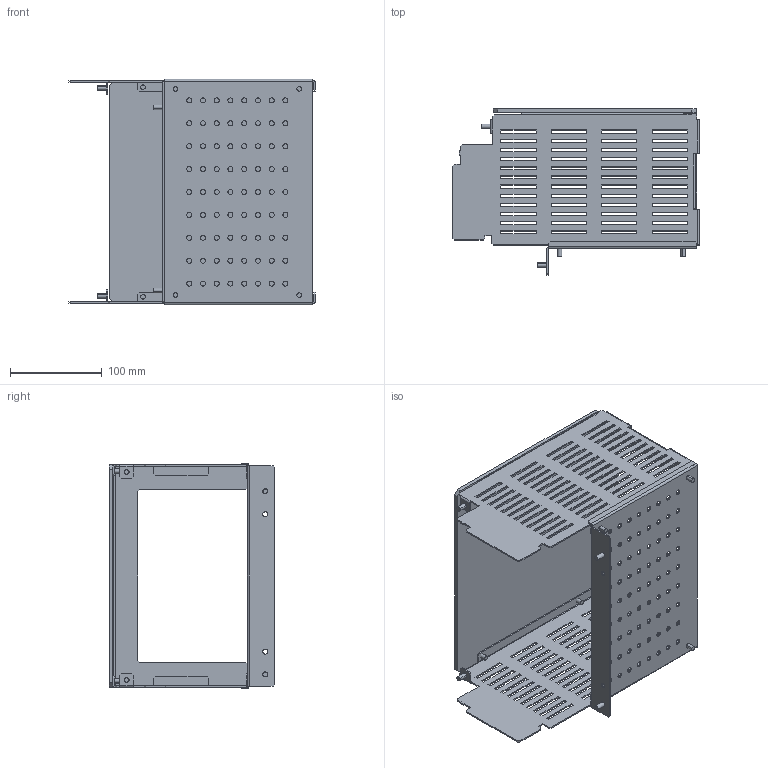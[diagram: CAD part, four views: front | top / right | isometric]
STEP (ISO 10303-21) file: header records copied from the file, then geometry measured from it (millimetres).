
FILE_DESCRIPTION(('CAx-IF Rec.Pracs.---Model Styling and Organization---1.2---2011-12-15','CAx-IF Rec.Pracs.---Geometric and Assembly Validation Properties---4.1---2014-06-16','CAx-IF Rec.Pracs.---PMI Polyline Presentation---2.0---2013-05-24'),'2;1');
FILE_NAME('R5MW5MSB4.stp','2021-05-05T12:59:47+03:00',(''),(''),'STEP Interface 4.4 by CT CoreTechnologie','3D_Evolution4.4 by CT CoreTechnologie','');
FILE_SCHEMA(('AUTOMOTIVE_DESIGN { 1 0 10303 214 1 1 1 1 }'));
Length unit declared in the file: millimetre
Products named in the file (7): R5MW5MSB4; M5x12-DIN7500C_stright; RB.1460.00.00.0_-03; RB.1461.00.00.0_-03; RB.1462.00.00.0_-03; RB.1409.00.00.0_-01; RB.1409.00.00.0_-00
Assembly tree (17 placements, depth 2):
  R5MW5MSB4
    M5x12-DIN7500C_stright  x12
    RB.1460.00.00.0_-03
    RB.1461.00.00.0_-03
    RB.1462.00.00.0_-03
    RB.1409.00.00.0_-01
    RB.1409.00.00.0_-00
Bounding box: 269 x 181 x 246 mm (x, y, z)
Surface area: 394652.5 mm2 (no closed solid volume)
Topology: 0 solids, 17 shells, 882 faces, 2508 edges, 1660 vertices
Faces by surface type: plane 642, cylinder 240
Entity records: 28756 total; most frequent: CARTESIAN_POINT 4914, ORIENTED_EDGE 4884, DIRECTION 4590, EDGE_CURVE 2442, VECTOR 2006, LINE 2006, VERTEX_POINT 1616, AXIS2_PLACEMENT_3D 1292
